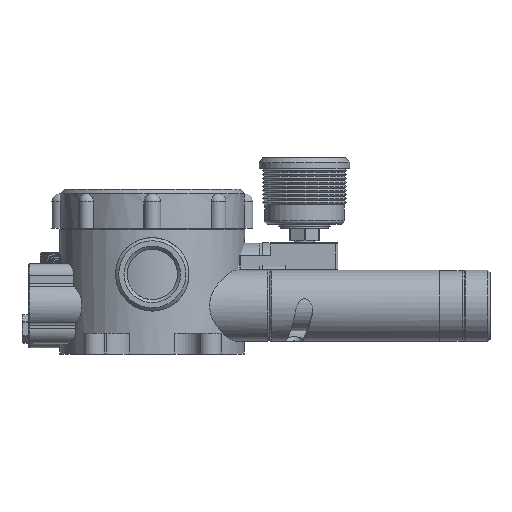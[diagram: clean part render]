
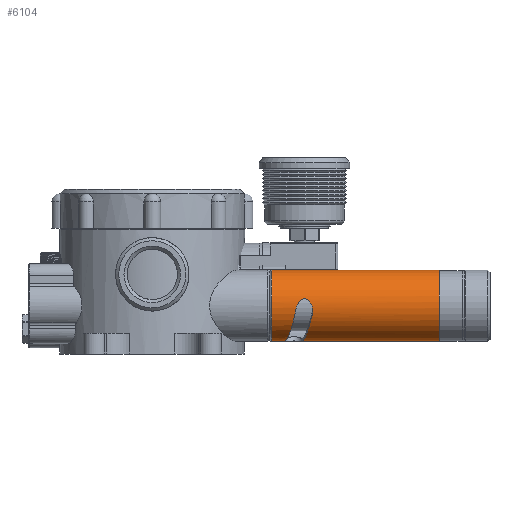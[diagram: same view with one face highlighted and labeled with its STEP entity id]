
A CAD part, front view. The second image highlights one B-rep face of the part: STEP entity #6104.
In plain terms, the highlighted cylindrical face has radius 17 mm (diameter 34 mm), a full revolution.
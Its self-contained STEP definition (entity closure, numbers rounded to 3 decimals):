
#6104 = ADVANCED_FACE( '', ( #11403, #11404, #11405 ), #11406, .T. );
#11403 = FACE_OUTER_BOUND( '', #14387, .T. );
#11404 = FACE_OUTER_BOUND( '', #14388, .T. );
#11405 = FACE_BOUND( '', #14389, .T. );
#11406 = CYLINDRICAL_SURFACE( '', #14390, 17. );
#14387 = EDGE_LOOP( '', ( #19918 ) );
#14388 = EDGE_LOOP( '', ( #19919 ) );
#14389 = EDGE_LOOP( '', ( #19920, #19921, #19922, #19923 ) );
#14390 = AXIS2_PLACEMENT_3D( '', #19924, #19925, #19926 );
#19918 = ORIENTED_EDGE( '', *, *, #25706, .T. );
#19919 = ORIENTED_EDGE( '', *, *, #25707, .F. );
#19920 = ORIENTED_EDGE( '', *, *, #25708, .F. );
#19921 = ORIENTED_EDGE( '', *, *, #25709, .F. );
#19922 = ORIENTED_EDGE( '', *, *, #25710, .F. );
#19923 = ORIENTED_EDGE( '', *, *, #25711, .F. );
#19924 = CARTESIAN_POINT( '', ( 38., 0., 0. ) );
#19925 = DIRECTION( '', ( 1., 0., 0. ) );
#19926 = DIRECTION( '', ( 0., 0., 1. ) );
#25706 = EDGE_CURVE( '', #28681, #28681, #28682, .T. );
#25707 = EDGE_CURVE( '', #28683, #28683, #28684, .T. );
#25708 = EDGE_CURVE( '', #28685, #28686, #28687, .T. );
#25709 = EDGE_CURVE( '', #28688, #28685, #28689, .T. );
#25710 = EDGE_CURVE( '', #28690, #28688, #28691, .T. );
#25711 = EDGE_CURVE( '', #28686, #28690, #28692, .T. );
#28681 = VERTEX_POINT( '', #30989 );
#28682 = CIRCLE( '', #30990, 17. );
#28683 = VERTEX_POINT( '', #30991 );
#28684 = CIRCLE( '', #30992, 17. );
#28685 = VERTEX_POINT( '', #30993 );
#28686 = VERTEX_POINT( '', #30994 );
#28687 = ELLIPSE( '', #30995, 17.523, 17. );
#28688 = VERTEX_POINT( '', #30996 );
#28689 = B_SPLINE_CURVE_WITH_KNOTS( '', 3, ( #30997, #30998, #30999, #31000, #31001, #31002, #31003, #31004, #31005, #31006, #31007, #31008, #31009, #31010, #31011, #31012, #31013, #31014, #31015, #31016, #31017, #31018, #31019, #31020, #31021, #31022, #31023, #31024, #31025, #31026, #31027, #31028, #31029, #31030, #31031, #31032 ), .UNSPECIFIED., .F., .F., ( 4, 2, 2, 2, 2, 2, 2, 2, 2, 2, 2, 2, 2, 2, 2, 2, 2, 4 ), ( 0., 0.002, 0.003, 0.004, 0.005, 0.006, 0.007, 0.007, 0.008, 0.008, 0.008, 0.009, 0.01, 0.01, 0.011, 0.012, 0.013, 0.015 ), .UNSPECIFIED. );
#28690 = VERTEX_POINT( '', #31033 );
#28691 = ELLIPSE( '', #31034, 17.523, 17. );
#28692 = B_SPLINE_CURVE_WITH_KNOTS( '', 3, ( #31035, #31036, #31037, #31038, #31039, #31040, #31041, #31042, #31043, #31044, #31045, #31046, #31047, #31048, #31049, #31050, #31051, #31052, #31053, #31054, #31055, #31056, #31057, #31058, #31059, #31060, #31061, #31062, #31063, #31064, #31065, #31066, #31067, #31068, #31069, #31070 ), .UNSPECIFIED., .F., .F., ( 4, 2, 2, 2, 2, 2, 2, 2, 2, 2, 2, 2, 2, 2, 2, 2, 2, 4 ), ( 0., 0.002, 0.003, 0.004, 0.005, 0.006, 0.007, 0.007, 0.008, 0.008, 0.008, 0.009, 0.01, 0.01, 0.011, 0.012, 0.013, 0.015 ), .UNSPECIFIED. );
#30989 = CARTESIAN_POINT( '', ( 34.8, 0., 17. ) );
#30990 = AXIS2_PLACEMENT_3D( '', #33142, #33143, #33144 );
#30991 = CARTESIAN_POINT( '', ( -45., 0., 17. ) );
#30992 = AXIS2_PLACEMENT_3D( '', #33145, #33146, #33147 );
#30993 = CARTESIAN_POINT( '', ( -30.619, -12.987, -10.97 ) );
#30994 = CARTESIAN_POINT( '', ( -25.619, -14.404, 9.03 ) );
#30995 = AXIS2_PLACEMENT_3D( '', #33148, #33149, #33150 );
#30996 = CARTESIAN_POINT( '', ( -38.381, -14.404, -9.03 ) );
#30997 = CARTESIAN_POINT( '', ( -38.381, -14.404, -9.03 ) );
#30998 = CARTESIAN_POINT( '', ( -38.513, -14.071, -9.56 ) );
#30999 = CARTESIAN_POINT( '', ( -38.53, -13.709, -10.073 ) );
#31000 = CARTESIAN_POINT( '', ( -38.424, -13.121, -10.814 ) );
#31001 = CARTESIAN_POINT( '', ( -38.366, -12.919, -11.054 ) );
#31002 = CARTESIAN_POINT( '', ( -38.211, -12.513, -11.512 ) );
#31003 = CARTESIAN_POINT( '', ( -38.114, -12.307, -11.731 ) );
#31004 = CARTESIAN_POINT( '', ( -37.88, -11.892, -12.152 ) );
#31005 = CARTESIAN_POINT( '', ( -37.745, -11.684, -12.351 ) );
#31006 = CARTESIAN_POINT( '', ( -37.44, -11.278, -12.723 ) );
#31007 = CARTESIAN_POINT( '', ( -37.27, -11.079, -12.896 ) );
#31008 = CARTESIAN_POINT( '', ( -36.889, -10.693, -13.218 ) );
#31009 = CARTESIAN_POINT( '', ( -36.675, -10.505, -13.368 ) );
#31010 = CARTESIAN_POINT( '', ( -36.323, -10.25, -13.563 ) );
#31011 = CARTESIAN_POINT( '', ( -36.201, -10.17, -13.623 ) );
#31012 = CARTESIAN_POINT( '', ( -35.943, -10.02, -13.733 ) );
#31013 = CARTESIAN_POINT( '', ( -35.806, -9.951, -13.784 ) );
#31014 = CARTESIAN_POINT( '', ( -35.525, -9.831, -13.869 ) );
#31015 = CARTESIAN_POINT( '', ( -35.379, -9.78, -13.905 ) );
#31016 = CARTESIAN_POINT( '', ( -35.076, -9.7, -13.961 ) );
#31017 = CARTESIAN_POINT( '', ( -34.918, -9.671, -13.981 ) );
#31018 = CARTESIAN_POINT( '', ( -34.445, -9.626, -14.012 ) );
#31019 = CARTESIAN_POINT( '', ( -34.12, -9.653, -13.994 ) );
#31020 = CARTESIAN_POINT( '', ( -33.664, -9.766, -13.915 ) );
#31021 = CARTESIAN_POINT( '', ( -33.515, -9.816, -13.88 ) );
#31022 = CARTESIAN_POINT( '', ( -33.23, -9.933, -13.796 ) );
#31023 = CARTESIAN_POINT( '', ( -33.095, -10., -13.748 ) );
#31024 = CARTESIAN_POINT( '', ( -32.706, -10.22, -13.586 ) );
#31025 = CARTESIAN_POINT( '', ( -32.468, -10.393, -13.455 ) );
#31026 = CARTESIAN_POINT( '', ( -32.041, -10.758, -13.165 ) );
#31027 = CARTESIAN_POINT( '', ( -31.849, -10.951, -13.006 ) );
#31028 = CARTESIAN_POINT( '', ( -31.501, -11.35, -12.659 ) );
#31029 = CARTESIAN_POINT( '', ( -31.345, -11.557, -12.47 ) );
#31030 = CARTESIAN_POINT( '', ( -30.937, -12.173, -11.881 ) );
#31031 = CARTESIAN_POINT( '', ( -30.739, -12.583, -11.449 ) );
#31032 = CARTESIAN_POINT( '', ( -30.619, -12.987, -10.97 ) );
#31033 = CARTESIAN_POINT( '', ( -33.381, -12.987, 10.97 ) );
#31034 = AXIS2_PLACEMENT_3D( '', #33151, #33152, #33153 );
#31035 = CARTESIAN_POINT( '', ( -25.619, -14.404, 9.03 ) );
#31036 = CARTESIAN_POINT( '', ( -25.487, -14.071, 9.56 ) );
#31037 = CARTESIAN_POINT( '', ( -25.47, -13.709, 10.073 ) );
#31038 = CARTESIAN_POINT( '', ( -25.576, -13.121, 10.814 ) );
#31039 = CARTESIAN_POINT( '', ( -25.634, -12.919, 11.054 ) );
#31040 = CARTESIAN_POINT( '', ( -25.789, -12.513, 11.512 ) );
#31041 = CARTESIAN_POINT( '', ( -25.886, -12.307, 11.731 ) );
#31042 = CARTESIAN_POINT( '', ( -26.12, -11.892, 12.152 ) );
#31043 = CARTESIAN_POINT( '', ( -26.255, -11.684, 12.351 ) );
#31044 = CARTESIAN_POINT( '', ( -26.56, -11.278, 12.723 ) );
#31045 = CARTESIAN_POINT( '', ( -26.73, -11.079, 12.896 ) );
#31046 = CARTESIAN_POINT( '', ( -27.111, -10.693, 13.218 ) );
#31047 = CARTESIAN_POINT( '', ( -27.325, -10.505, 13.368 ) );
#31048 = CARTESIAN_POINT( '', ( -27.677, -10.25, 13.563 ) );
#31049 = CARTESIAN_POINT( '', ( -27.799, -10.17, 13.623 ) );
#31050 = CARTESIAN_POINT( '', ( -28.057, -10.02, 13.733 ) );
#31051 = CARTESIAN_POINT( '', ( -28.194, -9.951, 13.784 ) );
#31052 = CARTESIAN_POINT( '', ( -28.475, -9.831, 13.869 ) );
#31053 = CARTESIAN_POINT( '', ( -28.621, -9.78, 13.905 ) );
#31054 = CARTESIAN_POINT( '', ( -28.924, -9.7, 13.961 ) );
#31055 = CARTESIAN_POINT( '', ( -29.082, -9.671, 13.981 ) );
#31056 = CARTESIAN_POINT( '', ( -29.555, -9.626, 14.012 ) );
#31057 = CARTESIAN_POINT( '', ( -29.88, -9.653, 13.994 ) );
#31058 = CARTESIAN_POINT( '', ( -30.336, -9.766, 13.915 ) );
#31059 = CARTESIAN_POINT( '', ( -30.485, -9.816, 13.88 ) );
#31060 = CARTESIAN_POINT( '', ( -30.77, -9.933, 13.796 ) );
#31061 = CARTESIAN_POINT( '', ( -30.905, -10., 13.748 ) );
#31062 = CARTESIAN_POINT( '', ( -31.294, -10.22, 13.586 ) );
#31063 = CARTESIAN_POINT( '', ( -31.532, -10.393, 13.455 ) );
#31064 = CARTESIAN_POINT( '', ( -31.959, -10.758, 13.165 ) );
#31065 = CARTESIAN_POINT( '', ( -32.151, -10.951, 13.006 ) );
#31066 = CARTESIAN_POINT( '', ( -32.499, -11.35, 12.659 ) );
#31067 = CARTESIAN_POINT( '', ( -32.655, -11.557, 12.47 ) );
#31068 = CARTESIAN_POINT( '', ( -33.063, -12.173, 11.881 ) );
#31069 = CARTESIAN_POINT( '', ( -33.261, -12.583, 11.449 ) );
#31070 = CARTESIAN_POINT( '', ( -33.381, -12.987, 10.97 ) );
#33142 = CARTESIAN_POINT( '', ( 34.8, 0., 0. ) );
#33143 = DIRECTION( '', ( -1., 0., 0. ) );
#33144 = DIRECTION( '', ( 0., 0., 1. ) );
#33145 = CARTESIAN_POINT( '', ( -45., 0., 0. ) );
#33146 = DIRECTION( '', ( -1., 0., 0. ) );
#33147 = DIRECTION( '', ( 0., 0., 1. ) );
#33148 = CARTESIAN_POINT( '', ( -27.877, 0., 0. ) );
#33149 = DIRECTION( '', ( -0.97, 0., 0.243 ) );
#33150 = DIRECTION( '', ( -0.243, 0., -0.97 ) );
#33151 = CARTESIAN_POINT( '', ( -36.123, 0., 0. ) );
#33152 = DIRECTION( '', ( 0.97, 0., -0.243 ) );
#33153 = DIRECTION( '', ( -0.243, 0., -0.97 ) );
